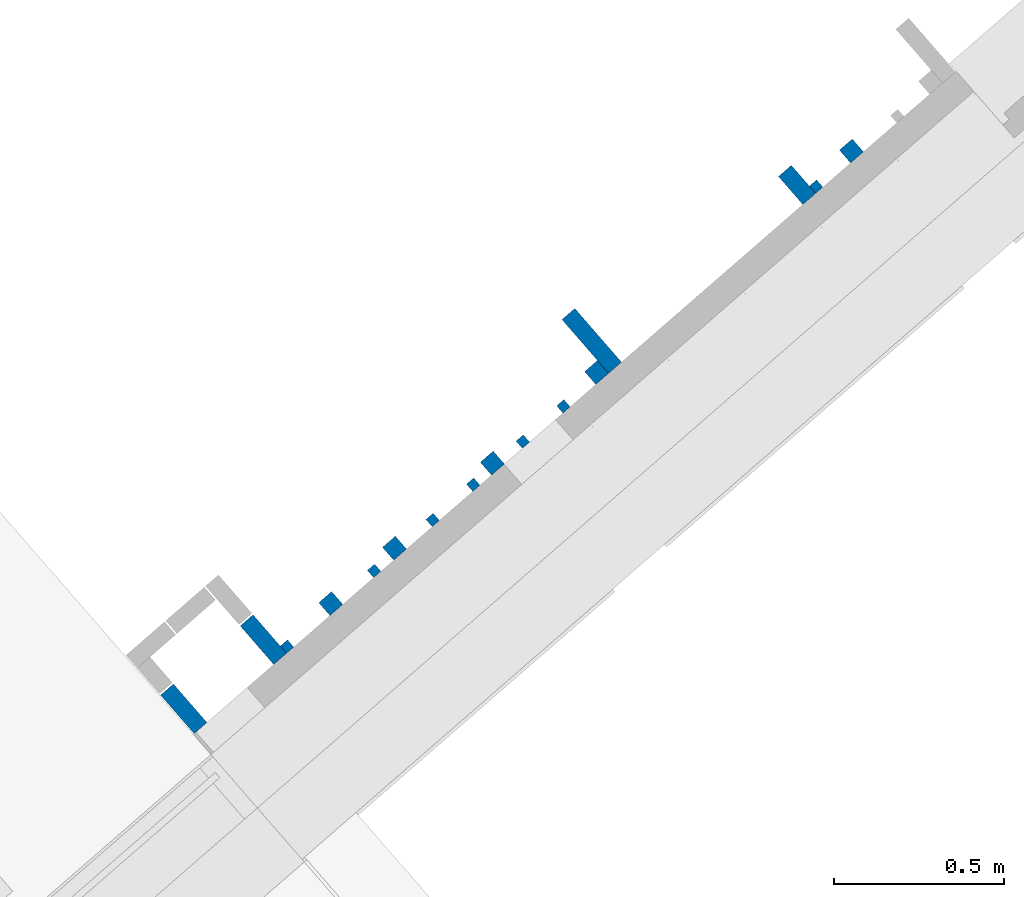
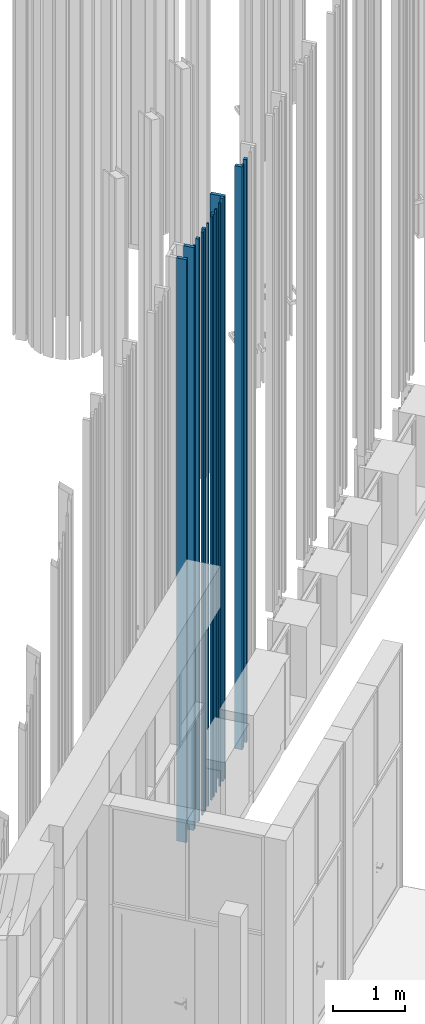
# One storey, part 224 of 390: 16 walls.
"""IFC2X3 building model written with IfcOpenShell, lengths in millimetres."""

from ifc_helpers import new_model, entity, si_unit, converted_unit, derived_unit, money_unit, direction, frame, origin_with_axes, place, context, subcontext, project, spatial, faceted_brep, material, type_object, element, save


model = new_model("IFC2X3")

# Units and contexts
model_context = context("Model", 3, precision=1e-05, world=origin_with_axes(), true_north=direction((0.0, 1.0)))
body_context = subcontext(model_context, "Body", "Model", "MODEL_VIEW")
ifc_project = project(units=[si_unit("LENGTHUNIT", "METRE", prefix="MILLI"), si_unit("AREAUNIT", "SQUARE_METRE"), si_unit("VOLUMEUNIT", "CUBIC_METRE"), converted_unit("PLANEANGLEUNIT", "DEGREE", entity("IfcPlaneAngleMeasure", 0.0174532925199), si_unit("PLANEANGLEUNIT", "RADIAN"), dimensions=[0, 0, 0, 0, 0, 0, 0]), si_unit("SOLIDANGLEUNIT", "STERADIAN"), money_unit("EUR"), converted_unit("TIMEUNIT", "Year", entity("IfcTimeMeasure", 31556926.0), si_unit("TIMEUNIT", "SECOND"), dimensions=[0, 0, 1, 0, 0, 0, 0]), si_unit("MASSUNIT", "GRAM", prefix="KILO"), si_unit("THERMODYNAMICTEMPERATUREUNIT", "DEGREE_CELSIUS"), si_unit("LUMINOUSINTENSITYUNIT", "LUMEN"), si_unit("ENERGYUNIT", "JOULE", prefix="MEGA"), derived_unit("THERMALCONDUCTANCEUNIT", [(si_unit("POWERUNIT", "WATT"), 1), (si_unit("LENGTHUNIT", "METRE"), -1), (si_unit("THERMODYNAMICTEMPERATUREUNIT", "KELVIN"), -1)]), derived_unit("SPECIFICHEATCAPACITYUNIT", [(si_unit("ENERGYUNIT", "JOULE"), 1), (si_unit("MASSUNIT", "GRAM", prefix="KILO"), -1), (si_unit("THERMODYNAMICTEMPERATUREUNIT", "KELVIN"), -1)]), derived_unit("MASSDENSITYUNIT", [(si_unit("MASSUNIT", "GRAM", prefix="KILO"), 1), (si_unit("VOLUMEUNIT", "CUBIC_METRE"), -1)])], contexts=[model_context])

# Site, building, storey
site_placement = place(None, origin_with_axes())
site = spatial("IfcSite", under=ifc_project, at=site_placement, Name="Site", CompositionType="ELEMENT")
building_placement = place(site_placement, origin_with_axes())
building = spatial("IfcBuilding", under=site, at=building_placement, Name="Building", CompositionType="ELEMENT")
storey_placement = place(building_placement, origin_with_axes())
storey = spatial("IfcBuildingStorey", under=building, at=storey_placement, Name="1 korrus", CompositionType="ELEMENT", Elevation=0.0)

# Walls
ifc_material = material(Name="Site specified")
wall_type_1 = type_object("IfcWallType", Name="Puitfassaadi ribistik", PredefinedType="NOTDEFINED")
wall_1_placement = place(storey_placement, frame((137448.552184, 89518.6193336, 0.0), z_axis=(0.0, 0.0, 1.0), x_axis=(0.754709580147, 0.656059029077, 0.0)))
element("IfcWall", 1, at=wall_1_placement, inside=storey, type_object=wall_type_1, material=ifc_material, Name="Site specified", context=body_context, shape_type="Brep", body=[
    faceted_brep([(25.0, 25.0, 9865.0), (25.0, 25.0, 0.0), (-25.0, 25.0, 0.0), (-25.0, 25.0, 9865.0), (25.0, -25.0, 9865.0), (25.0, -25.0, 0.0), (-25.0, -25.0, 0.0), (-25.0, -25.0, 9865.0)], [[[0, 1, 2, 3]], [[4, 5, 1, 0]], [[2, 1, 5, 6]], [[3, 2, 6, 7]], [[4, 0, 3, 7]], [[7, 6, 5, 4]]]),
])
wall_2_placement = place(storey_placement, frame((137350.864202, 89419.1253232, 0.0), z_axis=(0.0, 0.0, 1.0), x_axis=(0.754709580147, 0.656059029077, 0.0)))
element("IfcWall", 2, at=wall_2_placement, inside=storey, type_object=wall_type_1, material=ifc_material, Name="Site specified", context=body_context, shape_type="Brep", body=[
    faceted_brep([(14.0, 14.0, 9865.0), (14.0, 14.0, 0.0), (-14.0, 14.0, 0.0), (-14.0, 14.0, 9865.0), (14.0, -14.0, 9865.0), (14.0, -14.0, 0.0), (-14.0, -14.0, 0.0), (-14.0, -14.0, 9865.0)], [[[0, 1, 2, 3]], [[4, 5, 1, 0]], [[2, 1, 5, 6]], [[3, 2, 6, 7]], [[4, 0, 3, 7]], [[7, 6, 5, 4]]]),
])
wall_3_placement = place(storey_placement, frame((137142.140095, 89252.2593678, 0.0), z_axis=(0.0, 0.0, 1.0), x_axis=(0.754709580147, 0.656059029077, 0.0)))
element("IfcWall", 3, at=wall_3_placement, inside=storey, type_object=wall_type_1, material=ifc_material, Name="Site specified", context=body_context, shape_type="Brep", body=[
    faceted_brep([(-25.0, 25.0, 9865.0), (25.0, 25.0, 9865.0), (25.0, 25.0, 0.0), (-25.0, 25.0, 0.0), (-25.0, -25.0, 9865.0), (25.0, -25.0, 9865.0), (25.0, -25.0, 0.0), (-25.0, -25.0, 0.0)], [[[0, 1, 2, 3]], [[4, 5, 1, 0]], [[1, 5, 6, 2]], [[7, 3, 2, 6]], [[4, 0, 3, 7]], [[5, 4, 7, 6]]]),
])
wall_4_placement = place(storey_placement, frame((137231.620088, 89315.4679966, 0.0), z_axis=(0.0, 0.0, 1.0), x_axis=(0.754709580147, 0.656059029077, 0.0)))
element("IfcWall", 4, at=wall_4_placement, inside=storey, type_object=wall_type_1, material=ifc_material, Name="Site specified", context=body_context, shape_type="Brep", body=[
    faceted_brep([(-14.0, 14.0, 9865.0), (14.0, 14.0, 9865.0), (14.0, 14.0, 0.0), (-14.0, 14.0, 0.0), (-14.0, -14.0, 9865.0), (14.0, -14.0, 9865.0), (14.0, -14.0, 0.0), (-14.0, -14.0, 0.0)], [[[0, 1, 2, 3]], [[4, 5, 1, 0]], [[1, 5, 6, 2]], [[7, 3, 2, 6]], [[4, 0, 3, 7]], [[5, 4, 7, 6]]]),
])
wall_5_placement = place(storey_placement, frame((136538.796716, 88713.2058272, 0.0), z_axis=(0.0, 0.0, 1.0), x_axis=(0.754709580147, 0.656059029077, 0.0)))
element("IfcWall", 5, at=wall_5_placement, inside=storey, type_object=wall_type_1, material=ifc_material, Name="Site specified", context=body_context, shape_type="Brep", body=[
    faceted_brep([(14.0, 14.0, 9865.0), (14.0, 14.0, 0.0), (-14.0, 14.0, 0.0), (-14.0, 14.0, 9865.0), (14.0, -14.0, 9865.0), (14.0, -14.0, 0.0), (-14.0, -14.0, 0.0), (-14.0, -14.0, 9865.0)], [[[0, 1, 2, 3]], [[4, 5, 1, 0]], [[2, 1, 5, 6]], [[3, 2, 6, 7]], [[4, 0, 3, 7]], [[7, 6, 5, 4]]]),
])
wall_6_placement = place(storey_placement, frame((137434.13097, 89611.4216967, 0.0), z_axis=(0.0, 0.0, 1.0), x_axis=(0.754709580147, 0.656059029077, 0.0)))
element("IfcWall", 6, at=wall_6_placement, inside=storey, type_object=wall_type_1, material=ifc_material, Name="Site specified", context=body_context, shape_type="Brep", body=[
    faceted_brep([(25.0, 104.5, 9865.0), (25.0, 104.5, 0.0), (-25.0, 104.5, 0.0), (-25.0, 104.5, 9865.0), (25.0, -104.5, 9865.0), (25.0, -104.5, 0.0), (-25.0, -104.5, 0.0), (-25.0, -104.5, 9865.0)], [[[0, 1, 2, 3]], [[4, 5, 1, 0]], [[2, 1, 5, 6]], [[3, 2, 6, 7]], [[4, 0, 3, 7]], [[7, 6, 5, 4]]]),
])
wall_7_placement = place(storey_placement, frame((138037.494613, 90069.6670592, 0.0), z_axis=(0.0, 0.0, 1.0), x_axis=(0.754709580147, 0.656059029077, 0.0)))
element("IfcWall", 7, at=wall_7_placement, inside=storey, type_object=wall_type_1, material=ifc_material, Name="Site specified", context=body_context, shape_type="Brep", body=[
    faceted_brep([(25.0, 54.5, 9865.0), (25.0, 54.5, 0.0), (-25.0, 54.5, 0.0), (-25.0, 54.5, 9865.0), (25.0, -54.5, 9865.0), (25.0, -54.5, 0.0), (-25.0, -54.5, 0.0), (-25.0, -54.5, 9865.0)], [[[0, 1, 2, 3]], [[4, 5, 1, 0]], [[2, 1, 5, 6]], [[3, 2, 6, 7]], [[4, 0, 3, 7]], [[7, 6, 5, 4]]]),
])
wall_8_placement = place(storey_placement, frame((138197.224336, 90169.430106, 0.0), z_axis=(0.0, 0.0, 1.0), x_axis=(0.754709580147, 0.656059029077, 0.0)))
element("IfcWall", 8, at=wall_8_placement, inside=storey, type_object=wall_type_1, material=ifc_material, Name="Site specified", context=body_context, shape_type="Brep", body=[
    faceted_brep([(-25.0, 25.0, 9865.0), (25.0, 25.0, 9865.0), (25.0, 25.0, 0.0), (-25.0, 25.0, 0.0), (-25.0, -25.0, 9865.0), (25.0, -25.0, 9865.0), (25.0, -25.0, 0.0), (-25.0, -25.0, 0.0)], [[[0, 1, 2, 3]], [[4, 5, 1, 0]], [[1, 5, 6, 2]], [[7, 3, 2, 6]], [[4, 0, 3, 7]], [[5, 4, 7, 6]]]),
])
wall_9_placement = place(storey_placement, frame((138093.498677, 90064.6876233, 0.0), z_axis=(0.0, 0.0, 1.0), x_axis=(0.754709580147, 0.656059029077, 0.0)))
element("IfcWall", 9, at=wall_9_placement, inside=storey, type_object=wall_type_1, material=ifc_material, Name="Site specified", context=body_context, shape_type="Brep", body=[
    faceted_brep([(14.0, 14.0, 9865.0), (14.0, 14.0, 0.0), (-14.0, 14.0, 0.0), (-14.0, 14.0, 9865.0), (14.0, -14.0, 9865.0), (14.0, -14.0, 0.0), (-14.0, -14.0, 0.0), (-14.0, -14.0, 9865.0)], [[[0, 1, 2, 3]], [[4, 5, 1, 0]], [[2, 1, 5, 6]], [[3, 2, 6, 7]], [[4, 0, 3, 7]], [[7, 6, 5, 4]]]),
])
for number, where, z_axis, x_axis, name in (
    (10, (136667.427769, 88839.5982385, 0.0), (0.0, 0.0, 1.0), (0.754709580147, 0.656059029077, 0.0), "Site specified"),
    (11, (136854.595745, 89002.3008777, 0.0), (0.0, 0.0, 1.0), (0.754709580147, 0.656059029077, 0.0), "Site specified"),
):
    element("IfcWall", number, at=place(storey_placement, frame(where, z_axis=z_axis, x_axis=x_axis)), inside=storey, type_object=wall_type_1, material=ifc_material, Name=name, context=body_context, shape_type="Brep", body=[
        faceted_brep([(25.0, 25.0, 9865.0), (25.0, 25.0, 0.0), (-25.0, 25.0, 0.0), (-25.0, 25.0, 9865.0), (25.0, -25.0, 9865.0), (25.0, -25.0, 0.0), (-25.0, -25.0, 0.0), (-25.0, -25.0, 9865.0)], [[[0, 1, 2, 3]], [[4, 5, 1, 0]], [[2, 1, 5, 6]], [[3, 2, 6, 7]], [[4, 0, 3, 7]], [[7, 6, 5, 4]]]),
    ])
for number, where, z_axis, x_axis, name in (
    (12, (136794.643241, 88935.6098187, 0.0), (0.0, 0.0, 1.0), (0.754709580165, 0.656059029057, 0.0), "Site specified"),
    (13, (137085.961139, 89188.848604, 0.0), (0.0, 0.0, 1.0), (0.754709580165, 0.656059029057, 0.0), "Site specified"),
    (14, (136966.717026, 89085.1912774, 0.0), (0.0, 0.0, 1.0), (0.754709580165, 0.656059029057, 0.0), "Site specified"),
):
    element("IfcWall", number, at=place(storey_placement, frame(where, z_axis=z_axis, x_axis=x_axis)), inside=storey, type_object=wall_type_1, material=ifc_material, Name=name, context=body_context, shape_type="Brep", body=[
        faceted_brep([(-14.0, -14.0, 9865.0), (-14.0, -14.0, 0.0), (14.0, -14.0, 0.0), (14.0, -14.0, 9865.0), (-14.0, 14.0, 9865.0), (-14.0, 14.0, 0.0), (14.0, 14.0, 0.0), (14.0, 14.0, 9865.0)], [[[0, 1, 2, 3]], [[4, 5, 1, 0]], [[2, 1, 5, 6]], [[3, 2, 6, 7]], [[4, 0, 3, 7]], [[7, 6, 5, 4]]]),
    ])
wall_type_2 = type_object("IfcWallType", Name="Puitfassaadi ribisik", PredefinedType="NOTDEFINED")
wall_10_placement = place(storey_placement, frame((136235.383493, 88530.2784368, 0.0), z_axis=(0.0, 0.0, 1.0), x_axis=(0.754709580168, 0.656059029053, 0.0)))
element("IfcWall", 15, at=wall_10_placement, inside=storey, type_object=wall_type_2, material=ifc_material, Name="Site specified", context=body_context, shape_type="Brep", body=[
    faceted_brep([(25.0, -75.0, 9864.9999949), (-25.0, -75.0, 9864.9999949), (-25.0, -75.0, 0.0), (25.0, -75.0, 0.0), (25.0, 75.0, 9864.9999949), (-25.0, 75.0, 9864.9999949), (-25.0, 75.0, 0.0), (25.0, 75.0, 0.0)], [[[0, 1, 2, 3]], [[4, 5, 1, 0]], [[1, 5, 6, 2]], [[7, 3, 2, 6]], [[4, 0, 3, 7]], [[5, 4, 7, 6]]]),
])
wall_11_placement = place(storey_placement, frame((136469.343442, 88733.6568094, 0.0), z_axis=(0.0, 0.0, 1.0), x_axis=(0.754709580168, 0.656059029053, 0.0)))
element("IfcWall", 16, at=wall_11_placement, inside=storey, type_object=wall_type_2, material=ifc_material, Name="Site specified", context=body_context, shape_type="Brep", body=[
    faceted_brep([(-25.0, -75.0, 9864.9999949), (-25.0, -75.0, 0.0), (25.0, -75.0, 0.0), (25.0, -75.0, 9864.9999949), (-25.0, 75.0, 9864.9999949), (-25.0, 75.0, 0.0), (25.0, 75.0, 0.0), (25.0, 75.0, 9864.9999949)], [[[0, 1, 2, 3]], [[4, 5, 1, 0]], [[2, 1, 5, 6]], [[3, 2, 6, 7]], [[4, 0, 3, 7]], [[7, 6, 5, 4]]]),
])

save(model, "model.ifc")
